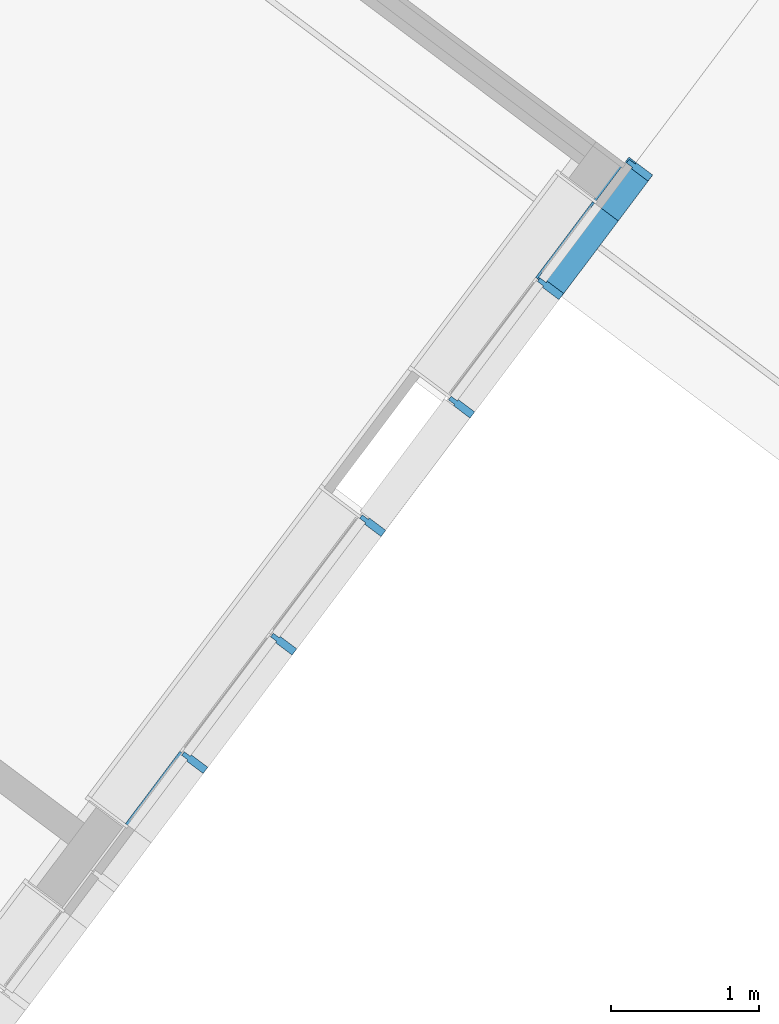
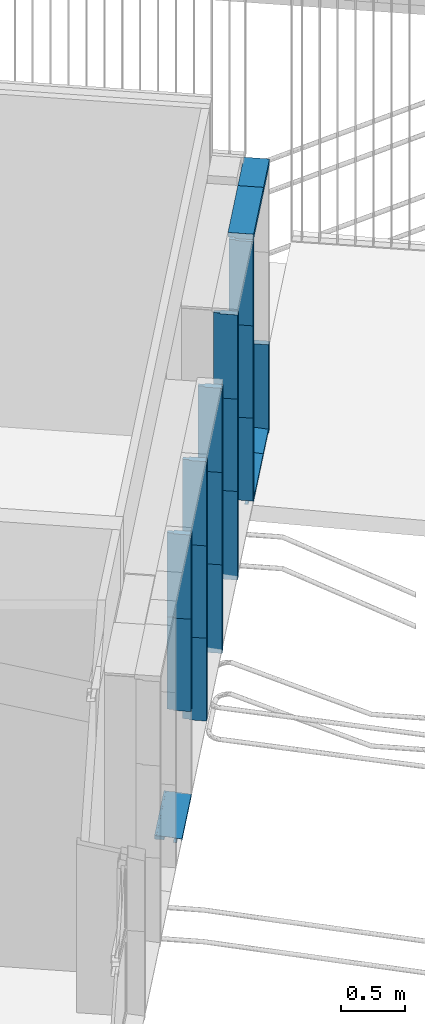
# One storey, part 88 of 243: 20 members, 1 element without a shape of its own.
"""IFC2X3 building model written with IfcOpenShell, lengths in metres."""

import ifcopenshell
import ifcopenshell.guid

model = None  # the IFC model being written
_history = None  # IfcOwnerHistory: only IFC2X3 demands one
_inside = {}  # id of a spatial element -> (the spatial element, [elements in it])
_under = {}  # id of a project, library or spatial element -> (it, [spatial elements below it])
_declared = {}  # id of a project -> (the project, [libraries it declares])
_typed = {}  # id of a type object -> (the type object, [elements of that type])
_made_of = {}  # id of a material, layer set ... -> (it, [elements and type objects made of it])


def new_model(schema):
    """Start an empty IFC model of exactly this schema.

    Asked for "IFC4X3", IfcOpenShell would pick the latest addendum, in which some entities
    have other attributes; the version numbers below select the first issue.
    IFC2X3 requires an IfcOwnerHistory on every rooted entity: one is made here for all.
    """
    global model, _history
    if schema == "IFC4X3":
        model = ifcopenshell.file(schema_version=(4, 3, 0, 0))
    else:
        model = ifcopenshell.file(schema=schema)
    _inside.clear()
    _under.clear()
    _declared.clear()
    _typed.clear()
    _made_of.clear()
    _history = None
    if model.schema == "IFC2X3":
        org = make("IfcOrganization", Name="unknown")
        user = make(
            "IfcPersonAndOrganization",
            ThePerson=make("IfcPerson", FamilyName="unknown"),
            TheOrganization=org,
        )
        app = make(
            "IfcApplication",
            ApplicationDeveloper=org,
            Version="unknown",
            ApplicationFullName="unknown",
            ApplicationIdentifier="unknown",
        )
        _history = make(
            "IfcOwnerHistory",
            OwningUser=user,
            OwningApplication=app,
            ChangeAction="ADDED",
            CreationDate=0,
        )
    return model


def make(cls, **values):
    """One entity of the class cls with the attributes given. An attribute that is None is left unset."""
    return model.create_entity(
        cls, **{name: value for name, value in values.items() if value is not None}
    )


def entity(cls, *values):
    """Any entity or typed value of the class cls, its attributes in the order of the schema. None: left unset."""
    e = model.create_entity(cls)
    for i, value in enumerate(values):
        if value is not None:
            e[i] = value
    return e


def rooted(cls, **values):
    """An entity with a GlobalId (a new one), such as an element, a storey or a relation."""
    return make(cls, GlobalId=ifcopenshell.guid.new(), OwnerHistory=_history, **values)


def si_unit(unit_type, name, prefix=None):
    """IfcSIUnit, for example si_unit("LENGTHUNIT", "METRE", prefix="MILLI")."""
    return make("IfcSIUnit", UnitType=unit_type, Prefix=prefix, Name=name)


def converted_unit(unit_type, name, factor, base, dimensions=None, offset=None):
    """IfcConversionBasedUnit, such as the inch: factor (a typed value) times the base unit."""
    return make(
        "IfcConversionBasedUnit"
        if offset is None
        else "IfcConversionBasedUnitWithOffset",
        ConversionOffset=offset,
        Dimensions=None
        if dimensions is None
        else entity("IfcDimensionalExponents", *dimensions),
        UnitType=unit_type,
        Name=name,
        ConversionFactor=make(
            "IfcMeasureWithUnit", ValueComponent=factor, UnitComponent=base
        ),
    )


def derived_unit(unit_type, elements):
    """IfcDerivedUnit: a product of units, each with its exponent."""
    return make(
        "IfcDerivedUnit",
        Elements=[
            make("IfcDerivedUnitElement", Unit=unit, Exponent=power)
            for unit, power in elements
        ],
        UnitType=unit_type,
    )


def assignment(units):
    """IfcUnitAssignment: the units of a project."""
    return None if units is None else make("IfcUnitAssignment", Units=units)


def point(xyz):
    """IfcCartesianPoint."""
    return None if xyz is None else make("IfcCartesianPoint", Coordinates=xyz)


def direction(xyz):
    """IfcDirection."""
    return None if xyz is None else make("IfcDirection", DirectionRatios=xyz)


def frame(location, z_axis=None, x_axis=None):
    """IfcAxis2Placement3D, a coordinate frame: its origin and axes. An axis left out is left unset."""
    return make(
        "IfcAxis2Placement3D",
        Location=point(location),
        Axis=direction(z_axis),
        RefDirection=direction(x_axis),
    )


def frame_2d(location, x_axis=None):
    """IfcAxis2Placement2D, a coordinate frame in the plane: its origin and x axis."""
    return make(
        "IfcAxis2Placement2D", Location=point(location), RefDirection=direction(x_axis)
    )


def origin():
    """The frame at (0, 0, 0) with its axes left unset."""
    return frame((0.0, 0.0, 0.0))


def place(relative_to, where):
    """IfcLocalPlacement: puts the frame where relative to a parent placement (None: the world)."""
    return make(
        "IfcLocalPlacement", PlacementRelTo=relative_to, RelativePlacement=where
    )


def context(
    kind, dimensions, precision=None, world=None, true_north=None, identifier=None
):
    """IfcGeometricRepresentationContext, for example the 3D "Model" context."""
    return make(
        "IfcGeometricRepresentationContext",
        ContextIdentifier=identifier,
        ContextType=kind,
        CoordinateSpaceDimension=dimensions,
        Precision=precision,
        WorldCoordinateSystem=world,
        TrueNorth=true_north,
    )


def subcontext(parent, identifier, kind, view, scale=None):
    """IfcGeometricRepresentationSubContext, for example "Body" below "Model"."""
    return make(
        "IfcGeometricRepresentationSubContext",
        ContextIdentifier=identifier,
        ContextType=kind,
        ParentContext=parent,
        TargetScale=scale,
        TargetView=view,
    )


def project(units=None, contexts=None):
    """IfcProject with its units and contexts."""
    return rooted(
        "IfcProject",
        Name="project",
        RepresentationContexts=contexts,
        UnitsInContext=assignment(units),
    )


def spatial(cls, under=None, at=None, **own):
    """A site, building, storey or space (cls), placed at a placement, below another one or the project."""
    s = rooted(cls, ObjectPlacement=at, **own)
    if under is not None:
        _under.setdefault(under.id(), (under, []))[1].append(s)
    return s


def polyline(points):
    """IfcPolyline through the points."""
    return make("IfcPolyline", Points=[point(p) for p in points])


def circle_curve(where, radius):
    """IfcCircle in the frame where."""
    return make("IfcCircle", Position=where, Radius=radius)


def parameter(value):
    """IfcParameterValue: where a trimmed curve begins or ends, as a parameter of its basis curve."""
    return model.create_entity("IfcParameterValue", value)


def trimmed(basis, trim1, trim2, sense, master):
    """IfcTrimmedCurve: the piece of a basis curve between two trims."""
    return make(
        "IfcTrimmedCurve",
        BasisCurve=basis,
        Trim1=trim1,
        Trim2=trim2,
        SenseAgreement=sense,
        MasterRepresentation=master,
    )


def segment(curve, same_sense, transition):
    """IfcCompositeCurveSegment."""
    return make(
        "IfcCompositeCurveSegment",
        Transition=transition,
        SameSense=same_sense,
        ParentCurve=curve,
    )


def composite_curve(segments, self_intersect=None):
    """IfcCompositeCurve: segments joined end to end."""
    return make("IfcCompositeCurve", Segments=segments, SelfIntersect=self_intersect)


def outline(outer, holes=None, kind="AREA"):
    """IfcArbitraryClosedProfileDef: a profile drawn as a closed curve; with holes, ...WithVoids."""
    if holes is None:
        return make("IfcArbitraryClosedProfileDef", ProfileType=kind, OuterCurve=outer)
    return make(
        "IfcArbitraryProfileDefWithVoids",
        ProfileType=kind,
        OuterCurve=outer,
        InnerCurves=holes,
    )


def extrude(swept, where, along, depth):
    """IfcExtrudedAreaSolid: the profile swept, set in the frame where, extruded along a direction by depth."""
    return make(
        "IfcExtrudedAreaSolid",
        SweptArea=swept,
        Position=where,
        ExtrudedDirection=direction(along),
        Depth=depth,
    )


def shape(context_of_items, identifier, shape_type, items):
    """IfcShapeRepresentation: the items that make up one representation, for example the "Body"."""
    return make(
        "IfcShapeRepresentation",
        ContextOfItems=context_of_items,
        RepresentationIdentifier=identifier,
        RepresentationType=shape_type,
        Items=items,
    )


def source(mapping_origin, context_of_items, identifier, shape_type, items):
    """IfcRepresentationMap: a shape defined once, which mapped items show again and again."""
    return make(
        "IfcRepresentationMap",
        MappingOrigin=mapping_origin,
        MappedRepresentation=shape(context_of_items, identifier, shape_type, items),
    )


def transform(
    local_origin,
    x_axis=None,
    y_axis=None,
    z_axis=None,
    scale=None,
    scale2=None,
    scale3=None,
    uniform=True,
):
    """IfcCartesianTransformationOperator3D, or its non-uniform kind. x_axis, y_axis, z_axis: its Axis1, 2, 3."""
    if uniform:
        return make(
            "IfcCartesianTransformationOperator3D",
            Axis1=direction(x_axis),
            Axis2=direction(y_axis),
            LocalOrigin=point(local_origin),
            Scale=scale,
            Axis3=direction(z_axis),
        )
    return make(
        "IfcCartesianTransformationOperator3DnonUniform",
        Axis1=direction(x_axis),
        Axis2=direction(y_axis),
        LocalOrigin=point(local_origin),
        Scale=scale,
        Axis3=direction(z_axis),
        Scale2=scale2,
        Scale3=scale3,
    )


def mapped(mapping_source, mapping_target):
    """IfcMappedItem: shows the shape of a source again, moved by a transform."""
    return make(
        "IfcMappedItem", MappingSource=mapping_source, MappingTarget=mapping_target
    )


def material(Name=None, Category=None):
    """IfcMaterial."""
    return make("IfcMaterial", Name=Name, Category=Category)


def made_of(thing, what):
    """Note that an element or type object is made of a material, layer set ...; save() writes the relation."""
    if what is not None:
        _made_of.setdefault(what.id(), (what, []))[1].append(thing)
    return thing


def type_object(cls, material=None, **own):
    """A type object (cls), such as IfcWallType, which elements share."""
    return made_of(rooted(cls, **own), material)


def type_shapes(of_type, sources):
    """Give a type object the sources (RepresentationMaps) that its elements show as mapped items."""
    of_type.RepresentationMaps = sources


def element(
    cls,
    number,
    at=None,
    inside=None,
    cuts=None,
    type_object=None,
    material=None,
    context=None,
    identifier="Body",
    shape_type=None,
    held_by="IfcProductDefinitionShape",
    body=None,
    shapes=None,
    **own,
):
    """One element of the class cls, such as IfcWall. Its Tag is "e" and its number.

    at: its placement. inside: the storey or other place that contains it. cuts: it is an
    opening in that element (IfcRelVoidsElement). A single representation is given by context,
    identifier, shape_type and body (its items); several are given by shapes. held_by: the class
    of the entity that holds the representations. save() writes the other relations.
    """
    e = rooted(cls, Tag="e%d" % number, ObjectPlacement=at, **own)
    if body is not None:
        shapes = [shape(context, identifier, shape_type, body)]
    if shapes is not None:
        e.Representation = make(held_by, Representations=shapes)
    if inside is not None:
        _inside.setdefault(inside.id(), (inside, []))[1].append(e)
    if cuts is not None:
        rooted(
            "IfcRelVoidsElement", RelatingBuildingElement=cuts, RelatedOpeningElement=e
        )
    if type_object is not None:
        _typed.setdefault(type_object.id(), (type_object, []))[1].append(e)
    return made_of(e, material)


def aggregate(whole, parts):
    """IfcRelAggregates: a whole, such as a stair, and the parts it consists of."""
    return rooted("IfcRelAggregates", RelatingObject=whole, RelatedObjects=parts)


def save(model, path):
    """Write the relations noted so far, then the file.

    IfcRelAggregates (storeys below a building ...), IfcRelContainedInSpatialStructure (elements
    in a storey), IfcRelDefinesByType, IfcRelAssociatesMaterial and IfcRelDeclares: one each for
    every whole, place, type object, material and project.
    """
    for whole, parts in _under.values():
        aggregate(whole, parts)
    for where, things in _inside.values():
        rooted(
            "IfcRelContainedInSpatialStructure",
            RelatedElements=things,
            RelatingStructure=where,
        )
    for kind, things in _typed.values():
        rooted("IfcRelDefinesByType", RelatedObjects=things, RelatingType=kind)
    for what, things in _made_of.values():
        rooted("IfcRelAssociatesMaterial", RelatedObjects=things, RelatingMaterial=what)
    for by, libraries in _declared.values():
        rooted("IfcRelDeclares", RelatingContext=by, RelatedDefinitions=libraries)
    model.write(path)


model = new_model("IFC2X3")

# Units and contexts
model_context = context("Model", 3, precision=1e-05, world=origin(), true_north=direction((6.123031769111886e-17, 1.0)))
body_context = subcontext(model_context, "Body", "Model", "MODEL_VIEW")
ifc_project = project(units=[si_unit("LENGTHUNIT", "METRE"), si_unit("AREAUNIT", "SQUARE_METRE"), si_unit("VOLUMEUNIT", "CUBIC_METRE"), converted_unit("PLANEANGLEUNIT", "DEGREE", entity("IfcRatioMeasure", 0.017453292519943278), si_unit("PLANEANGLEUNIT", "RADIAN"), dimensions=[0, 0, 0, 0, 0, 0, 0]), si_unit("MASSUNIT", "GRAM", prefix="KILO"), derived_unit("MASSDENSITYUNIT", [(si_unit("MASSUNIT", "GRAM", prefix="KILO"), 1), (si_unit("LENGTHUNIT", "METRE"), -3)]), derived_unit("IONCONCENTRATIONUNIT", [(si_unit("MASSUNIT", "GRAM", prefix="KILO"), 1), (si_unit("LENGTHUNIT", "METRE"), -3)]), derived_unit("MOMENTOFINERTIAUNIT", [(si_unit("LENGTHUNIT", "METRE"), 4)]), si_unit("TIMEUNIT", "SECOND"), si_unit("FREQUENCYUNIT", "HERTZ"), si_unit("THERMODYNAMICTEMPERATUREUNIT", "DEGREE_CELSIUS"), derived_unit("THERMALTRANSMITTANCEUNIT", [(si_unit("MASSUNIT", "GRAM", prefix="KILO"), 1), (si_unit("THERMODYNAMICTEMPERATUREUNIT", "KELVIN"), -1), (si_unit("TIMEUNIT", "SECOND"), -3)]), derived_unit("THERMALCONDUCTANCEUNIT", [(si_unit("MASSUNIT", "GRAM", prefix="KILO"), 1), (si_unit("THERMODYNAMICTEMPERATUREUNIT", "KELVIN"), -1), (si_unit("TIMEUNIT", "SECOND"), -3), (si_unit("LENGTHUNIT", "METRE"), 1)]), derived_unit("VOLUMETRICFLOWRATEUNIT", [(si_unit("LENGTHUNIT", "METRE"), 3), (si_unit("TIMEUNIT", "SECOND"), -1)]), derived_unit("MASSFLOWRATEUNIT", [(si_unit("MASSUNIT", "GRAM", prefix="KILO"), 1), (si_unit("TIMEUNIT", "SECOND"), -1)]), derived_unit("ROTATIONALFREQUENCYUNIT", [(si_unit("TIMEUNIT", "SECOND"), -1)]), si_unit("ELECTRICCURRENTUNIT", "AMPERE"), si_unit("ELECTRICVOLTAGEUNIT", "VOLT"), si_unit("POWERUNIT", "WATT"), si_unit("FORCEUNIT", "NEWTON", prefix="KILO"), si_unit("ILLUMINANCEUNIT", "LUX"), si_unit("LUMINOUSFLUXUNIT", "LUMEN"), si_unit("LUMINOUSINTENSITYUNIT", "CANDELA"), derived_unit("USERDEFINED", [(si_unit("MASSUNIT", "GRAM", prefix="KILO"), -1), (si_unit("LENGTHUNIT", "METRE"), -2), (si_unit("TIMEUNIT", "SECOND"), 3), (si_unit("LUMINOUSFLUXUNIT", "LUMEN"), 1)]), derived_unit("USERDEFINED", [(si_unit("MASSUNIT", "GRAM", prefix="KILO"), 1), (si_unit("TIMEUNIT", "SECOND"), -3), (si_unit("LENGTHUNIT", "METRE"), 3), (si_unit("ELECTRICCURRENTUNIT", "AMPERE"), -2)]), derived_unit("SOUNDPOWERUNIT", [(si_unit("MASSUNIT", "GRAM", prefix="KILO"), 1), (si_unit("TIMEUNIT", "SECOND"), -3), (si_unit("LENGTHUNIT", "METRE"), 2)]), derived_unit("SOUNDPRESSUREUNIT", [(si_unit("MASSUNIT", "GRAM", prefix="KILO"), 1), (si_unit("LENGTHUNIT", "METRE"), -1), (si_unit("TIMEUNIT", "SECOND"), -2)]), derived_unit("LINEARVELOCITYUNIT", [(si_unit("LENGTHUNIT", "METRE"), 1), (si_unit("TIMEUNIT", "SECOND"), -1)]), si_unit("PRESSUREUNIT", "PASCAL"), derived_unit("USERDEFINED", [(si_unit("MASSUNIT", "GRAM", prefix="KILO"), 1), (si_unit("LENGTHUNIT", "METRE"), -2), (si_unit("TIMEUNIT", "SECOND"), -2)]), derived_unit("LINEARFORCEUNIT", [(si_unit("MASSUNIT", "GRAM", prefix="KILO"), 1), (si_unit("TIMEUNIT", "SECOND"), -2)]), derived_unit("PLANARFORCEUNIT", [(si_unit("MASSUNIT", "GRAM", prefix="KILO"), 1), (si_unit("LENGTHUNIT", "METRE"), -1), (si_unit("TIMEUNIT", "SECOND"), -2)]), derived_unit("SPECIFICHEATCAPACITYUNIT", [(si_unit("THERMODYNAMICTEMPERATUREUNIT", "KELVIN"), -1), (si_unit("LENGTHUNIT", "METRE"), 2), (si_unit("TIMEUNIT", "SECOND"), -2)]), derived_unit("HEATINGVALUEUNIT", [(si_unit("LENGTHUNIT", "METRE"), 2), (si_unit("TIMEUNIT", "SECOND"), -2)]), derived_unit("VAPORPERMEABILITYUNIT", [(si_unit("LENGTHUNIT", "METRE"), -1), (si_unit("TIMEUNIT", "SECOND"), 1)]), derived_unit("DYNAMICVISCOSITYUNIT", [(si_unit("MASSUNIT", "GRAM", prefix="KILO"), 1), (si_unit("TIMEUNIT", "SECOND"), -1), (si_unit("LENGTHUNIT", "METRE"), -1)]), derived_unit("THERMALEXPANSIONCOEFFICIENTUNIT", [(si_unit("THERMODYNAMICTEMPERATUREUNIT", "KELVIN"), -1)]), derived_unit("MODULUSOFELASTICITYUNIT", [(si_unit("MASSUNIT", "GRAM", prefix="KILO"), 1), (si_unit("LENGTHUNIT", "METRE"), -1), (si_unit("TIMEUNIT", "SECOND"), -2)]), derived_unit("ISOTHERMALMOISTURECAPACITYUNIT", [(si_unit("LENGTHUNIT", "METRE"), 3), (si_unit("MASSUNIT", "GRAM", prefix="KILO"), -1)]), derived_unit("MOISTUREDIFFUSIVITYUNIT", [(si_unit("TIMEUNIT", "SECOND"), -1), (si_unit("LENGTHUNIT", "METRE"), 2)])], contexts=[model_context])

# Site, building, storey
site_placement = place(None, frame((0.0, 0.0, 235.0), z_axis=(0.0, 0.0, 1.0), x_axis=(-0.7996477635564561, 0.6004693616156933, 0.0)))
site = spatial("IfcSite", under=ifc_project, at=site_placement, Name="Default", CompositionType="ELEMENT")
building_placement = place(site_placement, origin())
building = spatial("IfcBuilding", under=site, at=building_placement, CompositionType="ELEMENT")
storey_placement = place(building_placement, origin())
storey = spatial("IfcBuildingStorey", under=building, at=storey_placement, Name="P0- Escola", CompositionType="ELEMENT", Elevation=0.0)

# Curtain wall, members
curtain_wall_type = type_object("IfcCurtainWallType", Name="Muro cortina:MC- EXT- MC2", PredefinedType="NOTDEFINED")
curtain_wall_placement = place(storey_placement, origin())
curtain_wall = element("IfcCurtainWall", 1, at=curtain_wall_placement, inside=storey, type_object=curtain_wall_type, Name="Muro cortina:MC- EXT- MC2", ObjectType="Muro cortina:MC- EXT- MC2")
ifc_material = material(Name="_Alumini- T1- Perfil")
member_type_1 = type_object("IfcMemberType", Name="Montante rectangular:MC- Alu- 140x52,5 cm- Fa patis- Centre", PredefinedType="MULLION", material=ifc_material)
shared_shape_1 = source(origin(), body_context, "Body", "SweptSolid", [
    extrude(outline(polyline([(-0.11699999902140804, -0.026250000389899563), (0.021999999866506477, -0.026250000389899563), (0.021999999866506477, -0.01500000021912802), (0.07299999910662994, -0.01500000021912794), (0.07299999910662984, 0.015000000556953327), (0.02200000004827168, 0.015000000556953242), (0.02200000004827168, 0.026250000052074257), (-0.11699999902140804, 0.026250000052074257), (-0.11699999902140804, -0.026250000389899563)])), frame((0.0, 0.022999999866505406, -0.8400000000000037), z_axis=(0.0, 0.0, 1.0), x_axis=(0.0, -1.0, 0.0)), (0.0, 0.0, 1.0), 0.8400000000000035),
])
type_shapes(member_type_1, [shared_shape_1])
member_1_placement = place(curtain_wall_placement, frame((28.345147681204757, -35.415191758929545, -0.02), z_axis=(0.0, 0.0, -1.0), x_axis=(0.0, -1.0, 0.0)))
member_1 = element("IfcMember", 2, at=member_1_placement, type_object=member_type_1, material=ifc_material, Name="Montante rectangular:MC- Alu- 140x52,5 cm- Fa patis- Centre", ObjectType="Montante rectangular:MC- Alu- 140x52,5 cm- Fa patis- Centre", context=body_context, shape_type="MappedRepresentation", body=[
    mapped(shared_shape_1, transform((0.0, 0.0, 0.0), scale=1.0)),
])
member_2_placement = place(curtain_wall_placement, frame((28.34514768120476, -34.415191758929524, -0.02), z_axis=(0.0, 0.0, -1.0), x_axis=(0.0, -1.0, 0.0)))
member_2 = element("IfcMember", 3, at=member_2_placement, type_object=member_type_1, material=ifc_material, Name="Montante rectangular:MC- Alu- 140x52,5 cm- Fa patis- Centre", ObjectType="Montante rectangular:MC- Alu- 140x52,5 cm- Fa patis- Centre", context=body_context, shape_type="MappedRepresentation", body=[
    mapped(shared_shape_1, transform((0.0, 0.0, 0.0), scale=1.0)),
])
member_type_2 = type_object("IfcMemberType", Name="Montante rectangular:MC- Alu- 140x52,5 cm- Fa patis- Centre", PredefinedType="MULLION", material=ifc_material)
shared_shape_2 = source(origin(), body_context, "Body", "SweptSolid", [
    extrude(outline(polyline([(-0.11699999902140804, -0.026250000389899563), (0.021999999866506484, -0.026250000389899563), (0.021999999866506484, -0.01500000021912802), (0.07299999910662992, -0.01500000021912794), (0.07299999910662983, 0.015000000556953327), (0.022000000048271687, 0.015000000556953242), (0.022000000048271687, 0.026250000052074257), (-0.11699999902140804, 0.026250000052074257), (-0.11699999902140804, -0.026250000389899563)])), frame((0.0, 0.022999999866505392, -0.7850000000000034), z_axis=(0.0, 0.0, 1.0), x_axis=(0.0, -1.0, 0.0)), (0.0, 0.0, 1.0), 0.7850000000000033),
])
type_shapes(member_type_2, [shared_shape_2])
member_3_placement = place(curtain_wall_placement, frame((28.34514768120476, -33.41519175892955, 0.035000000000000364), z_axis=(0.0, 0.0, -1.0), x_axis=(0.0, -1.0, 0.0)))
member_3 = element("IfcMember", 4, at=member_3_placement, type_object=member_type_2, material=ifc_material, Name="Montante rectangular:MC- Alu- 140x52,5 cm- Fa patis- Centre", ObjectType="Montante rectangular:MC- Alu- 140x52,5 cm- Fa patis- Centre", context=body_context, shape_type="MappedRepresentation", body=[
    mapped(shared_shape_2, transform((0.0, 0.0, 0.0), scale=1.0)),
])
member_4_placement = place(curtain_wall_placement, frame((28.345147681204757, -36.41442791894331, 0.035000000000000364), z_axis=(0.0, 0.0, -1.0), x_axis=(0.0, -1.0, 0.0)))
member_4 = element("IfcMember", 5, at=member_4_placement, type_object=member_type_2, material=ifc_material, Name="Montante rectangular:MC- Alu- 140x52,5 cm- Fa patis- Centre", ObjectType="Montante rectangular:MC- Alu- 140x52,5 cm- Fa patis- Centre", context=body_context, shape_type="MappedRepresentation", body=[
    mapped(shared_shape_2, transform((0.0, 0.0, 0.0), scale=1.0)),
])
member_type_3 = type_object("IfcMemberType", Name="Montante rectangular:MC- Alu- 140x52,5 cm- Fa patis- Centre", PredefinedType="MULLION", material=ifc_material)
shared_shape_3 = source(origin(), body_context, "Body", "SweptSolid", [
    extrude(outline(polyline([(-0.11699999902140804, -0.026250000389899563), (0.021999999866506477, -0.026250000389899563), (0.021999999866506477, -0.01500000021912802), (0.07299999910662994, -0.01500000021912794), (0.07299999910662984, 0.015000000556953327), (0.02200000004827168, 0.015000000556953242), (0.02200000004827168, 0.026250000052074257), (-0.11699999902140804, 0.026250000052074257), (-0.11699999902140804, -0.026250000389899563)])), frame((0.0, 0.022999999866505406, -0.8750000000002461), z_axis=(0.0, 0.0, 1.0), x_axis=(0.0, -1.0, 0.0)), (0.0, 0.0, 1.0), 0.8750000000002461),
])
type_shapes(member_type_3, [shared_shape_3])
member_5_placement = place(curtain_wall_placement, frame((28.34514768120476, -32.41519175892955, 0.8200000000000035), z_axis=(0.0, 0.0, -1.0), x_axis=(0.0, -1.0, 0.0)))
member_5 = element("IfcMember", 6, at=member_5_placement, type_object=member_type_3, material=ifc_material, Name="Montante rectangular:MC- Alu- 140x52,5 cm- Fa patis- Centre", ObjectType="Montante rectangular:MC- Alu- 140x52,5 cm- Fa patis- Centre", context=body_context, shape_type="MappedRepresentation", body=[
    mapped(shared_shape_3, transform((0.0, 0.0, 0.0), scale=1.0)),
])
member_6_placement = place(curtain_wall_placement, frame((28.34514768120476, -33.41519175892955, 0.8200000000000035), z_axis=(0.0, 0.0, -1.0), x_axis=(0.0, -1.0, 0.0)))
member_6 = element("IfcMember", 7, at=member_6_placement, type_object=member_type_3, material=ifc_material, Name="Montante rectangular:MC- Alu- 140x52,5 cm- Fa patis- Centre", ObjectType="Montante rectangular:MC- Alu- 140x52,5 cm- Fa patis- Centre", context=body_context, shape_type="MappedRepresentation", body=[
    mapped(shared_shape_3, transform((0.0, 0.0, 0.0), scale=1.0)),
])
member_7_placement = place(curtain_wall_placement, frame((28.34514768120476, -34.41519175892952, 0.8200000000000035), z_axis=(0.0, 0.0, -1.0), x_axis=(0.0, -1.0, 0.0)))
member_7 = element("IfcMember", 8, at=member_7_placement, type_object=member_type_3, material=ifc_material, Name="Montante rectangular:MC- Alu- 140x52,5 cm- Fa patis- Centre", ObjectType="Montante rectangular:MC- Alu- 140x52,5 cm- Fa patis- Centre", context=body_context, shape_type="MappedRepresentation", body=[
    mapped(shared_shape_3, transform((0.0, 0.0, 0.0), scale=1.0)),
])
member_8_placement = place(curtain_wall_placement, frame((28.345147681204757, -35.415191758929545, 0.8200000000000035), z_axis=(0.0, 0.0, -1.0), x_axis=(0.0, -1.0, 0.0)))
member_8 = element("IfcMember", 9, at=member_8_placement, type_object=member_type_3, material=ifc_material, Name="Montante rectangular:MC- Alu- 140x52,5 cm- Fa patis- Centre", ObjectType="Montante rectangular:MC- Alu- 140x52,5 cm- Fa patis- Centre", context=body_context, shape_type="MappedRepresentation", body=[
    mapped(shared_shape_3, transform((0.0, 0.0, 0.0), scale=1.0)),
])
member_9_placement = place(curtain_wall_placement, frame((28.345147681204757, -36.41442791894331, 0.8200000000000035), z_axis=(0.0, 0.0, -1.0), x_axis=(0.0, -1.0, 0.0)))
member_9 = element("IfcMember", 10, at=member_9_placement, type_object=member_type_3, material=ifc_material, Name="Montante rectangular:MC- Alu- 140x52,5 cm- Fa patis- Centre", ObjectType="Montante rectangular:MC- Alu- 140x52,5 cm- Fa patis- Centre", context=body_context, shape_type="MappedRepresentation", body=[
    mapped(shared_shape_3, transform((0.0, 0.0, 0.0), scale=1.0)),
])
member_type_4 = type_object("IfcMemberType", Name="Montante rectangular:MC- Alu- 140x52,5 cm- Fa patis- Centre", PredefinedType="MULLION", material=ifc_material)
shared_shape_4 = source(origin(), body_context, "Body", "SweptSolid", [
    extrude(outline(polyline([(-0.11699999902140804, -0.026250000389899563), (0.021999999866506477, -0.026250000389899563), (0.021999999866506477, -0.01500000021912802), (0.07299999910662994, -0.01500000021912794), (0.07299999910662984, 0.015000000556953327), (0.02200000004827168, 0.015000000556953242), (0.02200000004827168, 0.026250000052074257), (-0.11699999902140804, 0.026250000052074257), (-0.11699999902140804, -0.026250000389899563)])), frame((0.0, 0.022999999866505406, -0.79749999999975), z_axis=(0.0, 0.0, 1.0), x_axis=(0.0, -1.0, 0.0)), (0.0, 0.0, 1.0), 0.79749999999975),
])
type_shapes(member_type_4, [shared_shape_4])
member_10_placement = place(curtain_wall_placement, frame((28.34514768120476, -32.41519175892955, 1.6950000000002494), z_axis=(0.0, 0.0, -1.0), x_axis=(0.0, -1.0, 0.0)))
member_10 = element("IfcMember", 11, at=member_10_placement, type_object=member_type_4, material=ifc_material, Name="Montante rectangular:MC- Alu- 140x52,5 cm- Fa patis- Centre", ObjectType="Montante rectangular:MC- Alu- 140x52,5 cm- Fa patis- Centre", context=body_context, shape_type="MappedRepresentation", body=[
    mapped(shared_shape_4, transform((0.0, 0.0, 0.0), scale=1.0)),
])
member_11_placement = place(curtain_wall_placement, frame((28.34514768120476, -33.41519175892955, 1.6950000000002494), z_axis=(0.0, 0.0, -1.0), x_axis=(0.0, -1.0, 0.0)))
member_11 = element("IfcMember", 12, at=member_11_placement, type_object=member_type_4, material=ifc_material, Name="Montante rectangular:MC- Alu- 140x52,5 cm- Fa patis- Centre", ObjectType="Montante rectangular:MC- Alu- 140x52,5 cm- Fa patis- Centre", context=body_context, shape_type="MappedRepresentation", body=[
    mapped(shared_shape_4, transform((0.0, 0.0, 0.0), scale=1.0)),
])
member_12_placement = place(curtain_wall_placement, frame((28.34514768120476, -34.41519175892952, 1.6950000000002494), z_axis=(0.0, 0.0, -1.0), x_axis=(0.0, -1.0, 0.0)))
member_12 = element("IfcMember", 13, at=member_12_placement, type_object=member_type_4, material=ifc_material, Name="Montante rectangular:MC- Alu- 140x52,5 cm- Fa patis- Centre", ObjectType="Montante rectangular:MC- Alu- 140x52,5 cm- Fa patis- Centre", context=body_context, shape_type="MappedRepresentation", body=[
    mapped(shared_shape_4, transform((0.0, 0.0, 0.0), scale=1.0)),
])
member_13_placement = place(curtain_wall_placement, frame((28.345147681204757, -35.41519175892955, 1.6950000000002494), z_axis=(0.0, 0.0, -1.0), x_axis=(0.0, -1.0, 0.0)))
member_13 = element("IfcMember", 14, at=member_13_placement, type_object=member_type_4, material=ifc_material, Name="Montante rectangular:MC- Alu- 140x52,5 cm- Fa patis- Centre", ObjectType="Montante rectangular:MC- Alu- 140x52,5 cm- Fa patis- Centre", context=body_context, shape_type="MappedRepresentation", body=[
    mapped(shared_shape_4, transform((0.0, 0.0, 0.0), scale=1.0)),
])
member_14_placement = place(curtain_wall_placement, frame((28.345147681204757, -36.41442791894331, 1.6950000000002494), z_axis=(0.0, 0.0, -1.0), x_axis=(0.0, -1.0, 0.0)))
member_14 = element("IfcMember", 15, at=member_14_placement, type_object=member_type_4, material=ifc_material, Name="Montante rectangular:MC- Alu- 140x52,5 cm- Fa patis- Centre", ObjectType="Montante rectangular:MC- Alu- 140x52,5 cm- Fa patis- Centre", context=body_context, shape_type="MappedRepresentation", body=[
    mapped(shared_shape_4, transform((0.0, 0.0, 0.0), scale=1.0)),
])
member_type_5 = type_object("IfcMemberType", Name="Montante rectangular:MC- Alu- 140x52,5 cm- Fa patis- Superior", PredefinedType="MULLION", material=ifc_material)
shared_shape_5 = source(origin(), body_context, "Body", "SweptSolid", [
    extrude(outline(polyline([(-0.11366666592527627, -0.021249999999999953), (0.02633333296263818, -0.021249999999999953), (0.02633333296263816, -0.010000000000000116), (0.08733333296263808, -0.010000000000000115), (0.08733333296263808, 0.03125000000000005), (-0.11366666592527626, 0.031250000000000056), (-0.11366666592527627, -0.021249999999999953)])), frame((-0.031250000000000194, 0.027333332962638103, -0.3877500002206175), z_axis=(0.0, 0.0, 1.0), x_axis=(0.0, -1.0, 0.0)), (0.0, 0.0, 1.0), 0.3877500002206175),
])
type_shapes(member_type_5, [shared_shape_5])
member_15_placement = place(curtain_wall_placement, frame((28.345147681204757, -37.44144175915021, 2.545), z_axis=(0.0, -1.0, 0.0), x_axis=(0.0, 0.0, 1.0)))
member_15 = element("IfcMember", 16, at=member_15_placement, type_object=member_type_5, material=ifc_material, Name="Montante rectangular:MC- Alu- 140x52,5 cm- Fa patis- Superior", ObjectType="Montante rectangular:MC- Alu- 140x52,5 cm- Fa patis- Superior", context=body_context, shape_type="MappedRepresentation", body=[
    mapped(shared_shape_5, transform((0.0, 0.0, 0.0), scale=1.0)),
])
member_type_6 = type_object("IfcMemberType", Name="Montante rectangular:MC- Alu- 140x52,5 cm- Fa patis- Centre", PredefinedType="MULLION", material=ifc_material)
shared_shape_6 = source(origin(), body_context, "Body", "SweptSolid", [
    extrude(outline(polyline([(-0.11699999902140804, -0.026250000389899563), (0.021999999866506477, -0.026250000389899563), (0.021999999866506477, -0.015000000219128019), (0.07299999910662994, -0.015000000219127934), (0.07299999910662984, 0.015000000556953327), (0.02200000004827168, 0.015000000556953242), (0.02200000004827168, 0.026250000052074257), (-0.11699999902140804, 0.026250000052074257), (-0.11699999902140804, -0.026250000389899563)])), frame((-0.026250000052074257, 0.022999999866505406, -0.8400000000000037), z_axis=(0.0, 0.0, 1.0), x_axis=(0.0, -1.0, 0.0)), (0.0, 0.0, 1.0), 0.8400000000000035),
])
type_shapes(member_type_6, [shared_shape_6])
member_16_placement = place(curtain_wall_placement, frame((28.345147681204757, -37.44144175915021, -0.02), z_axis=(0.0, 0.0, -1.0), x_axis=(0.0, -1.0, 0.0)))
member_16 = element("IfcMember", 17, at=member_16_placement, type_object=member_type_6, material=ifc_material, Name="Montante rectangular:MC- Alu- 140x52,5 cm- Fa patis- Centre", ObjectType="Montante rectangular:MC- Alu- 140x52,5 cm- Fa patis- Centre", context=body_context, shape_type="MappedRepresentation", body=[
    mapped(shared_shape_6, transform((0.0, 0.0, 0.0), scale=1.0)),
])
member_type_7 = type_object("IfcMemberType", Name="Montante rectangular:MC- Alu- 140x52,5 cm- Fa patis- inferior", PredefinedType="MULLION", material=ifc_material)
shared_shape_7 = source(origin(), body_context, "Body", "SweptSolid", [
    extrude(outline(composite_curve([segment(polyline([(0.1278672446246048, -0.02586710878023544), (0.14416724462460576, -0.025867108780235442)]), True, "CONTINUOUS"), segment(polyline([(0.14416724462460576, -0.025867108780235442), (0.1441672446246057, 0.00913289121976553)]), True, "CONTINUOUS"), segment(polyline([(0.1441672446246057, 0.00913289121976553), (0.06786724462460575, 0.009132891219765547)]), True, "CONTINUOUS"), segment(polyline([(0.06786724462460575, 0.009132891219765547), (0.06786724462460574, -0.021159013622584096)]), True, "CONTINUOUS"), segment(polyline([(0.06786724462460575, -0.02115901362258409), (-0.030132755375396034, -0.012332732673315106)]), True, "CONTINUOUS"), segment(polyline([(-0.03013275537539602, -0.012332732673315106), (-0.030132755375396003, 0.027132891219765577)]), True, "CONTINUOUS"), segment(polyline([(-0.030132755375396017, 0.027132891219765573), (-0.0021327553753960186, 0.027132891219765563)]), True, "CONTINUOUS"), segment(polyline([(-0.0021327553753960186, 0.027132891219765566), (-0.0021327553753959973, 0.029132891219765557)]), True, "CONTINUOUS"), segment(polyline([(-0.0021327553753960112, 0.029132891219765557), (-0.032132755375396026, 0.029132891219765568)]), True, "CONTINUOUS"), segment(polyline([(-0.032132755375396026, 0.029132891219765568), (-0.03213275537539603, -0.01215260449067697)]), True, "CONTINUOUS"), segment(polyline([(-0.03213275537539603, -0.01215260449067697), (-0.0701327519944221, -0.008730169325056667)]), True, "CONTINUOUS"), segment(polyline([(-0.0701327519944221, -0.00873016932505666), (-0.0701327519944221, 0.005766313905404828)]), True, "CONTINUOUS"), segment(trimmed(circle_curve(frame_2d((-0.0696327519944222, 0.0057663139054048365), x_axis=(-1.0, 0.0)), 0.0004999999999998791), [parameter(269.999999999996)], [parameter(0.0)], True, "PARAMETER"), False, "CONTINUOUS"), segment(polyline([(-0.0696327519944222, 0.006266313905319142), (-0.06213275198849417, 0.006266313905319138)]), True, "CONTINUOUS"), segment(polyline([(-0.06213275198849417, 0.006266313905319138), (-0.06213275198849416, 0.008266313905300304)]), True, "CONTINUOUS"), segment(polyline([(-0.06213275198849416, 0.008266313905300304), (-0.07013275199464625, 0.008266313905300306)]), True, "CONTINUOUS"), segment(trimmed(circle_curve(frame_2d((-0.07013275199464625, 0.006266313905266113), x_axis=(0.0, 1.0)), 0.0020000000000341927), [parameter(0.0)], [parameter(90.00000002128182)], True, "PARAMETER"), True, "CONTINUOUS"), segment(polyline([(-0.07213275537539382, 0.006266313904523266), (-0.07213275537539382, -0.008730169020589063)]), True, "CONTINUOUS"), segment(trimmed(circle_curve(frame_2d((-0.07013275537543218, -0.008730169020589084), x_axis=(-1.0, 0.0)), 0.001999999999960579), [parameter(0.0)], [parameter(84.85359280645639)], True, "PARAMETER"), True, "CONTINUOUS"), segment(polyline([(-0.07031215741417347, -0.010722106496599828), (0.06786724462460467, -0.023167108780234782)]), True, "CONTINUOUS"), segment(polyline([(0.06786724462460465, -0.023167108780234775), (0.12786724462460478, -0.023167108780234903)]), True, "CONTINUOUS"), segment(polyline([(0.12786724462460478, -0.023167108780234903), (0.1278672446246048, -0.02586710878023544)]), True, "CONTINUOUS")], self_intersect=False)), frame((-0.02913289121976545, 0.06786724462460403, -0.6392638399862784), z_axis=(0.0, 0.0, 1.0), x_axis=(0.0, -1.0, 0.0)), (0.0, 0.0, 1.0), 0.6392638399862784),
])
type_shapes(member_type_7, [shared_shape_7])
member_17_placement = place(curtain_wall_placement, frame((28.345147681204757, -36.41442791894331, -0.02), z_axis=(0.0, 1.0, 0.0), x_axis=(0.0, 0.0, -1.0)))
member_17 = element("IfcMember", 18, at=member_17_placement, type_object=member_type_7, material=ifc_material, Name="Montante rectangular:MC- Alu- 140x52,5 cm- Fa patis- inferior", ObjectType="Montante rectangular:MC- Alu- 140x52,5 cm- Fa patis- inferior", context=body_context, shape_type="MappedRepresentation", body=[
    mapped(shared_shape_7, transform((0.0, 0.0, 0.0), scale=1.0)),
])
member_type_8 = type_object("IfcMemberType", Name="Montante rectangular:MC- Alu- 140x52,5 cm- Fa patis- Superior", PredefinedType="MULLION", material=ifc_material)
shared_shape_8 = source(origin(), body_context, "Body", "SweptSolid", [
    extrude(outline(polyline([(-0.11366666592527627, -0.021249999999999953), (0.02633333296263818, -0.021249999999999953), (0.02633333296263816, -0.010000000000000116), (0.08733333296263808, -0.010000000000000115), (0.08733333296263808, 0.03125000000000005), (-0.11366666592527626, 0.031250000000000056), (-0.11366666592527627, -0.021249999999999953)])), frame((-0.031250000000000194, 0.027333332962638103, -0.6392638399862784), z_axis=(0.0, 0.0, 1.0), x_axis=(0.0, -1.0, 0.0)), (0.0, 0.0, 1.0), 0.6392638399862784),
])
type_shapes(member_type_8, [shared_shape_8])
member_18_placement = place(curtain_wall_placement, frame((28.345147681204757, -37.053691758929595, 2.545), z_axis=(0.0, -1.0, 0.0), x_axis=(0.0, 0.0, 1.0)))
member_18 = element("IfcMember", 19, at=member_18_placement, type_object=member_type_8, material=ifc_material, Name="Montante rectangular:MC- Alu- 140x52,5 cm- Fa patis- Superior", ObjectType="Montante rectangular:MC- Alu- 140x52,5 cm- Fa patis- Superior", context=body_context, shape_type="MappedRepresentation", body=[
    mapped(shared_shape_8, transform((0.0, 0.0, 0.0), scale=1.0)),
])
member_type_9 = type_object("IfcMemberType", Name="Montante rectangular:MC- Alu- 140x52,5 cm- Fa patis- inferior", PredefinedType="MULLION", material=ifc_material)
shared_shape_9 = source(origin(), body_context, "Body", "SweptSolid", [
    extrude(outline(composite_curve([segment(polyline([(0.1278672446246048, -0.025867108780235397), (0.14416724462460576, -0.0258671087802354)]), True, "CONTINUOUS"), segment(polyline([(0.14416724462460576, -0.0258671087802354), (0.1441672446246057, 0.009132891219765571)]), True, "CONTINUOUS"), segment(polyline([(0.1441672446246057, 0.009132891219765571), (0.06786724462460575, 0.009132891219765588)]), True, "CONTINUOUS"), segment(polyline([(0.06786724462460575, 0.009132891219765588), (0.06786724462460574, -0.021159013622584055)]), True, "CONTINUOUS"), segment(polyline([(0.06786724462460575, -0.021159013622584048), (-0.030132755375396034, -0.012332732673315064)]), True, "CONTINUOUS"), segment(polyline([(-0.03013275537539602, -0.012332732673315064), (-0.030132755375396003, 0.027132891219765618)]), True, "CONTINUOUS"), segment(polyline([(-0.030132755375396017, 0.027132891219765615), (-0.0021327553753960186, 0.027132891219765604)]), True, "CONTINUOUS"), segment(polyline([(-0.0021327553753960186, 0.027132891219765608), (-0.0021327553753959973, 0.0291328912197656)]), True, "CONTINUOUS"), segment(polyline([(-0.0021327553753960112, 0.0291328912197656), (-0.032132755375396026, 0.02913289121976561)]), True, "CONTINUOUS"), segment(polyline([(-0.032132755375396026, 0.02913289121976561), (-0.03213275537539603, -0.012152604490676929)]), True, "CONTINUOUS"), segment(polyline([(-0.03213275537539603, -0.012152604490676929), (-0.0701327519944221, -0.008730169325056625)]), True, "CONTINUOUS"), segment(polyline([(-0.0701327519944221, -0.008730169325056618), (-0.0701327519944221, 0.0057663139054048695)]), True, "CONTINUOUS"), segment(trimmed(circle_curve(frame_2d((-0.0696327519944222, 0.005766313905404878), x_axis=(-1.0, 0.0)), 0.0004999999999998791), [parameter(269.999999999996)], [parameter(0.0)], True, "PARAMETER"), False, "CONTINUOUS"), segment(polyline([(-0.0696327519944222, 0.006266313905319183), (-0.06213275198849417, 0.00626631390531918)]), True, "CONTINUOUS"), segment(polyline([(-0.06213275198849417, 0.00626631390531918), (-0.06213275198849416, 0.008266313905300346)]), True, "CONTINUOUS"), segment(polyline([(-0.06213275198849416, 0.008266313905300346), (-0.07013275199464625, 0.008266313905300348)]), True, "CONTINUOUS"), segment(trimmed(circle_curve(frame_2d((-0.07013275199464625, 0.0062663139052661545), x_axis=(0.0, 1.0)), 0.0020000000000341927), [parameter(0.0)], [parameter(90.00000002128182)], True, "PARAMETER"), True, "CONTINUOUS"), segment(polyline([(-0.07213275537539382, 0.006266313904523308), (-0.07213275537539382, -0.008730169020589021)]), True, "CONTINUOUS"), segment(trimmed(circle_curve(frame_2d((-0.07013275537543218, -0.008730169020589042), x_axis=(-1.0, 0.0)), 0.001999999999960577), [parameter(0.0)], [parameter(84.85359280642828)], True, "PARAMETER"), True, "CONTINUOUS"), segment(polyline([(-0.07031215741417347, -0.010722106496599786), (0.06786724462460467, -0.02316710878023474)]), True, "CONTINUOUS"), segment(polyline([(0.06786724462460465, -0.023167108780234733), (0.12786724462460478, -0.02316710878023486)]), True, "CONTINUOUS"), segment(polyline([(0.12786724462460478, -0.02316710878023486), (0.1278672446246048, -0.025867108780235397)]), True, "CONTINUOUS")], self_intersect=False)), frame((-0.02913289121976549, 0.06786724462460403, -0.33524999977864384), z_axis=(0.0, 0.0, 1.0), x_axis=(0.0, -1.0, 0.0)), (0.0, 0.0, 1.0), 0.33524999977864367),
])
type_shapes(member_type_9, [shared_shape_9])
member_19_placement = place(curtain_wall_placement, frame((28.345147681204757, -37.053691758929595, -0.02), z_axis=(0.0, 1.0, 0.0), x_axis=(0.0, 0.0, -1.0)))
member_19 = element("IfcMember", 20, at=member_19_placement, type_object=member_type_9, material=ifc_material, Name="Montante rectangular:MC- Alu- 140x52,5 cm- Fa patis- inferior", ObjectType="Montante rectangular:MC- Alu- 140x52,5 cm- Fa patis- inferior", context=body_context, shape_type="MappedRepresentation", body=[
    mapped(shared_shape_9, transform((0.0, 0.0, 0.0), scale=1.0)),
])
member_type_10 = type_object("IfcMemberType", Name="Montante rectangular:MC- Alu- 140x52,5 cm- Fa patis- inferior", PredefinedType="MULLION", material=ifc_material)
shared_shape_10 = source(origin(), body_context, "Body", "SweptSolid", [
    extrude(outline(composite_curve([segment(polyline([(0.1278672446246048, -0.02586710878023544), (0.14416724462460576, -0.025867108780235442)]), True, "CONTINUOUS"), segment(polyline([(0.14416724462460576, -0.025867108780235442), (0.1441672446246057, 0.00913289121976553)]), True, "CONTINUOUS"), segment(polyline([(0.1441672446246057, 0.00913289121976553), (0.06786724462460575, 0.009132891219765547)]), True, "CONTINUOUS"), segment(polyline([(0.06786724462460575, 0.009132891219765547), (0.06786724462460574, -0.021159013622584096)]), True, "CONTINUOUS"), segment(polyline([(0.06786724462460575, -0.02115901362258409), (-0.030132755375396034, -0.012332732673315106)]), True, "CONTINUOUS"), segment(polyline([(-0.03013275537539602, -0.012332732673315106), (-0.030132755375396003, 0.027132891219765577)]), True, "CONTINUOUS"), segment(polyline([(-0.030132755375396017, 0.027132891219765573), (-0.0021327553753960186, 0.027132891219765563)]), True, "CONTINUOUS"), segment(polyline([(-0.0021327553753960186, 0.027132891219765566), (-0.0021327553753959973, 0.029132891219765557)]), True, "CONTINUOUS"), segment(polyline([(-0.0021327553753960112, 0.029132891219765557), (-0.032132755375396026, 0.029132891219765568)]), True, "CONTINUOUS"), segment(polyline([(-0.032132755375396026, 0.029132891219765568), (-0.03213275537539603, -0.01215260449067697)]), True, "CONTINUOUS"), segment(polyline([(-0.03213275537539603, -0.01215260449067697), (-0.0701327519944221, -0.008730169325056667)]), True, "CONTINUOUS"), segment(polyline([(-0.0701327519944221, -0.00873016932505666), (-0.0701327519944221, 0.005766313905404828)]), True, "CONTINUOUS"), segment(trimmed(circle_curve(frame_2d((-0.0696327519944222, 0.0057663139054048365), x_axis=(-1.0, 0.0)), 0.0004999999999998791), [parameter(269.999999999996)], [parameter(0.0)], True, "PARAMETER"), False, "CONTINUOUS"), segment(polyline([(-0.0696327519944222, 0.006266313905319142), (-0.06213275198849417, 0.006266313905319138)]), True, "CONTINUOUS"), segment(polyline([(-0.06213275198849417, 0.006266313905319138), (-0.06213275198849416, 0.008266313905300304)]), True, "CONTINUOUS"), segment(polyline([(-0.06213275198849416, 0.008266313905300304), (-0.07013275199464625, 0.008266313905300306)]), True, "CONTINUOUS"), segment(trimmed(circle_curve(frame_2d((-0.07013275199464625, 0.006266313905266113), x_axis=(0.0, 1.0)), 0.0020000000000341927), [parameter(0.0)], [parameter(90.00000002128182)], True, "PARAMETER"), True, "CONTINUOUS"), segment(polyline([(-0.07213275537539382, 0.006266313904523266), (-0.07213275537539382, -0.008730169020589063)]), True, "CONTINUOUS"), segment(trimmed(circle_curve(frame_2d((-0.07013275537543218, -0.008730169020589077), x_axis=(-1.0, 0.0)), 0.001999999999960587), [parameter(0.0)], [parameter(84.85359280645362)], True, "PARAMETER"), True, "CONTINUOUS"), segment(polyline([(-0.07031215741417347, -0.010722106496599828), (0.06786724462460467, -0.023167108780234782)]), True, "CONTINUOUS"), segment(polyline([(0.06786724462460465, -0.023167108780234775), (0.12786724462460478, -0.023167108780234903)]), True, "CONTINUOUS"), segment(polyline([(0.12786724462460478, -0.023167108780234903), (0.1278672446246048, -0.02586710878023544)]), True, "CONTINUOUS")], self_intersect=False)), frame((-0.02913289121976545, 0.06786724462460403, -0.611499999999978), z_axis=(0.0, 0.0, 1.0), x_axis=(0.0, -1.0, 0.0)), (0.0, 0.0, 1.0), 0.611499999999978),
])
type_shapes(member_type_10, [shared_shape_10])
member_20_placement = place(curtain_wall_placement, frame((28.345147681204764, -31.803691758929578, -0.02), z_axis=(0.0, 1.0, 0.0), x_axis=(0.0, 0.0, -1.0)))
member_20 = element("IfcMember", 21, at=member_20_placement, type_object=member_type_10, material=ifc_material, Name="Montante rectangular:MC- Alu- 140x52,5 cm- Fa patis- inferior", ObjectType="Montante rectangular:MC- Alu- 140x52,5 cm- Fa patis- inferior", context=body_context, shape_type="MappedRepresentation", body=[
    mapped(shared_shape_10, transform((0.0, 0.0, 0.0), scale=1.0)),
])
aggregate(curtain_wall, [member_15, member_16, member_3, member_1, member_2, member_17, member_4, member_18, member_19, member_20, member_5, member_6, member_7, member_8, member_9, member_10, member_11, member_12, member_13, member_14])

save(model, "model.ifc")
